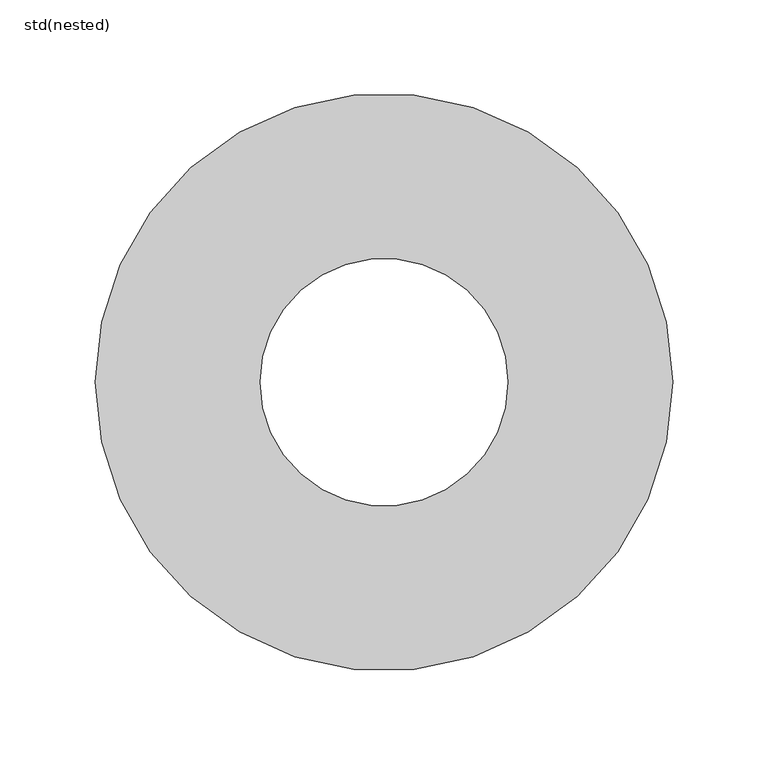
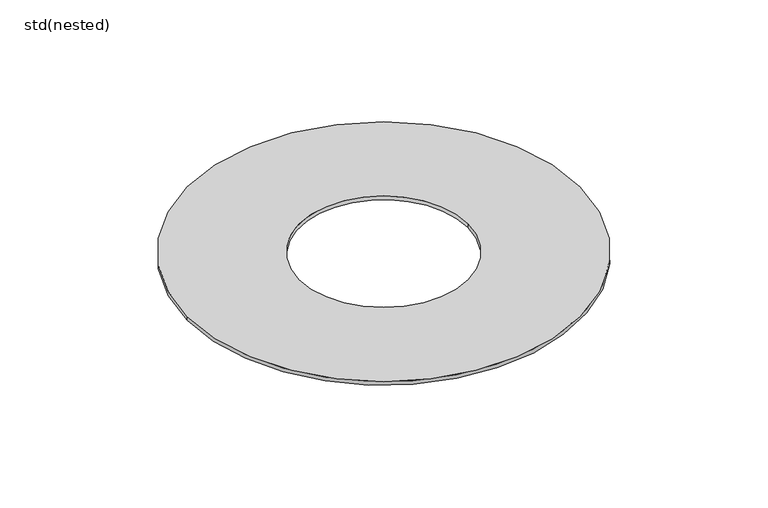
"""IFC4 building model written with IfcOpenShell, lengths in millimetres: sanitary terminal geometry, ZZZ_do_not_use_PF_UN_compressed seal flange_ACO : std(nested)."""

from ifc_helpers import new_model, si_unit, point, origin, origin_with_axes, origin_2d, place, context, project, spatial, circle_curve, trimmed, segment, composite_curve, outline, extrude, source, transform, mapped, element, save


def std_nested_4c5e4d0c(model_context):
    return source(origin(), model_context, "Body", "SweptSolid", [
        extrude(outline(composite_curve([segment(trimmed(circle_curve(origin_2d(), 151.5), [point((-151.5, 0.0))], [point((151.5, 0.0))], False, "CARTESIAN"), True, "CONTINUOUS"), segment(trimmed(circle_curve(origin_2d(), 151.5), [point((151.5, 0.0))], [point((-151.5, 0.0))], False, "CARTESIAN"), True, "CONTINUOUS")], self_intersect=False), holes=[composite_curve([segment(trimmed(circle_curve(origin_2d(), 65.0), [point((-65.0, 0.0))], [point((65.0, 0.0))], True, "CARTESIAN"), True, "CONTINUOUS"), segment(trimmed(circle_curve(origin_2d(), 65.0), [point((65.0, 0.0))], [point((-65.0, 0.0))], True, "CARTESIAN"), True, "CONTINUOUS")], self_intersect=False)]), origin_with_axes(), (0.0, 0.0, 1.0), 3.0),
    ])


if __name__ == "__main__":
    model = new_model("IFC4")
    model_context = context("Model", 3, world=origin())
    ifc_project = project(units=[si_unit("LENGTHUNIT", "METRE", prefix="MILLI")], contexts=[model_context])
    site = spatial("IfcSite", under=ifc_project)
    building = spatial("IfcBuilding", under=site)
    placement = place(None, origin())
    std_nested_shape = std_nested_4c5e4d0c(model_context)
    element("IfcSanitaryTerminal", 1, ObjectType="ZZZ_do_not_use_PF_UN_compressed seal flange_ACO : std(nested)", at=placement, inside=building, context=model_context, shape_type="MappedRepresentation", body=[
        mapped(std_nested_shape, transform((0.0, 0.0, 0.0), x_axis=(1.0, 0.0, 0.0), y_axis=(0.0, 1.0, 0.0), z_axis=(0.0, 0.0, 1.0))),
    ])
    save(model, "model.ifc")
